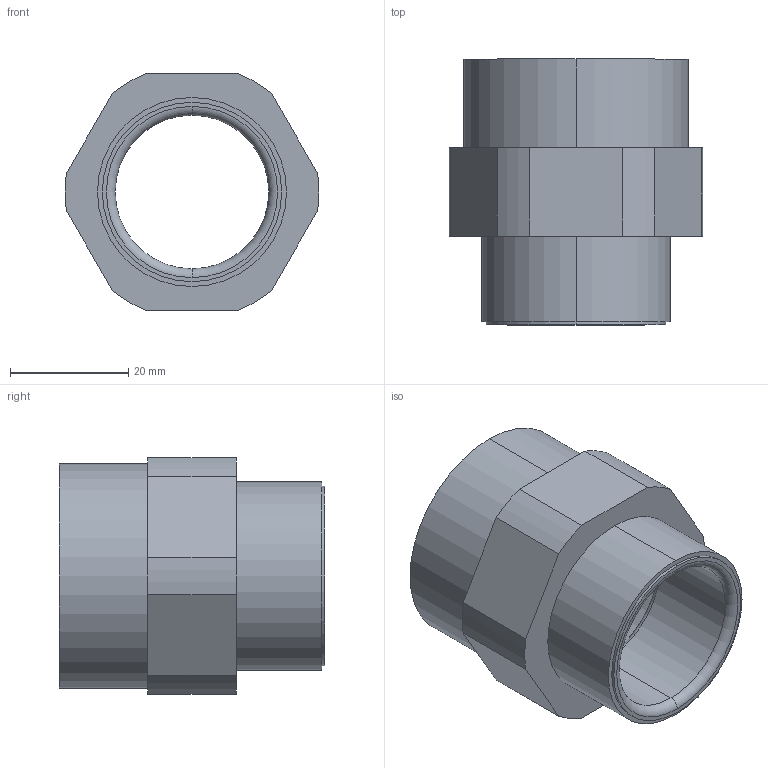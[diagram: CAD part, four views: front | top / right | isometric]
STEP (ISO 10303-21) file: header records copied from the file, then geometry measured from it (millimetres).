
FILE_DESCRIPTION (( 'STEP AP203' ), '1' );
FILE_NAME ('WYTC-23-M32.STEP', '2020-03-12T01:41:59', ( 'c' ), ( 'Microsoft' ), 'SwSTEP 2.0', 'SolidWorks 2016', '' );
FILE_SCHEMA (( 'CONFIG_CONTROL_DESIGN' ));
Length unit declared in the file: millimetre
Products named in the file (1): WYTC-23-M32
Bounding box: 42.95 x 45 x 40 mm (x, y, z)
Volume: 16965.4 mm3; surface area: 11921.3 mm2
Topology: 1 solids, 1 shells, 55 faces, 120 edges, 76 vertices
Faces by surface type: cylinder 26, plane 17, torus 12
Entity records: 1615 total; most frequent: DIRECTION 308, CARTESIAN_POINT 252, ORIENTED_EDGE 240, AXIS2_PLACEMENT_3D 132, EDGE_CURVE 120, CIRCLE 76, VERTEX_POINT 76, EDGE_LOOP 66
